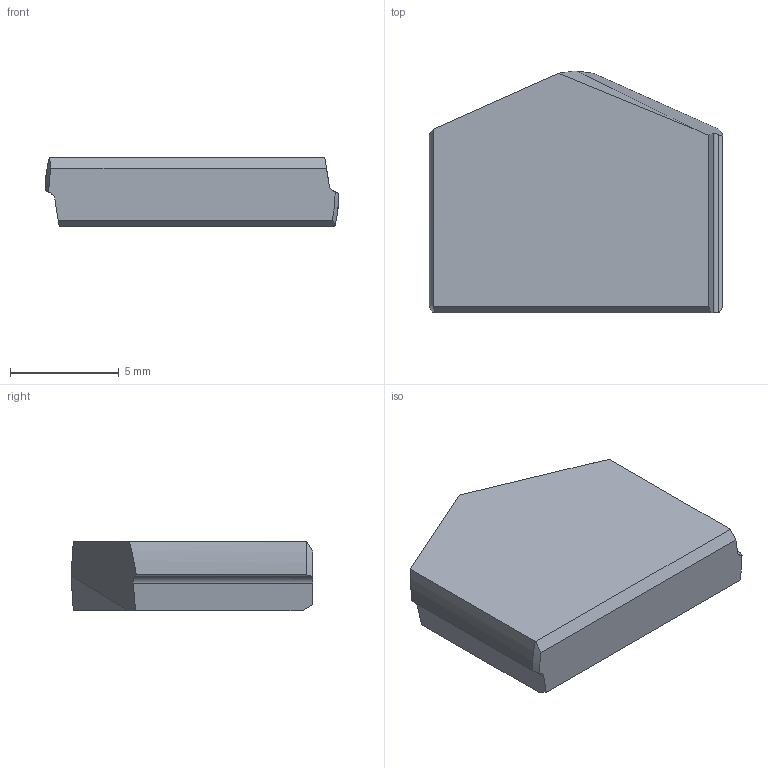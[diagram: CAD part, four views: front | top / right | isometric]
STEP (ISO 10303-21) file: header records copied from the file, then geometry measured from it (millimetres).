
FILE_DESCRIPTION (( 'STEP AP214' ), '1' );
FILE_NAME ('17-32.STEP', '2022-06-24T05:37:28', ( '' ), ( '' ), 'SwSTEP 2.0', 'SolidWorks 2018', '' );
FILE_SCHEMA (( 'AUTOMOTIVE_DESIGN' ));
Length unit declared in the file: millimetre
Products named in the file (1): 17-32
Bounding box: 13.49 x 11.1 x 3.2 mm (x, y, z)
Volume: 396.9 mm3; surface area: 382.2 mm2
Topology: 1 solids, 1 shells, 19 faces, 50 edges, 33 vertices
Faces by surface type: plane 13, cylinder 4, cone 2
Entity records: 620 total; most frequent: CARTESIAN_POINT 133, ORIENTED_EDGE 100, DIRECTION 86, EDGE_CURVE 50, LINE 34, VECTOR 34, VERTEX_POINT 33, AXIS2_PLACEMENT_3D 26
